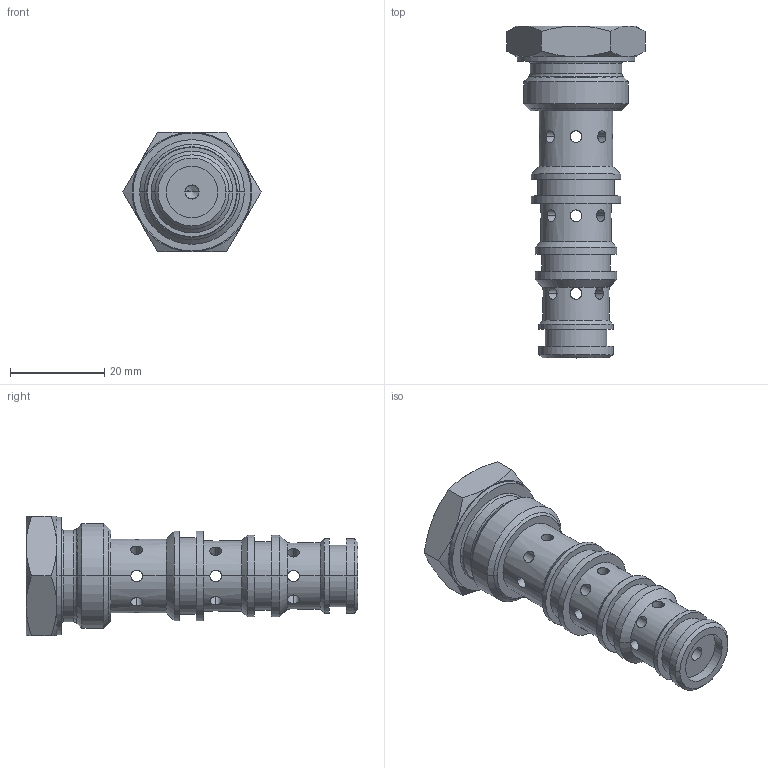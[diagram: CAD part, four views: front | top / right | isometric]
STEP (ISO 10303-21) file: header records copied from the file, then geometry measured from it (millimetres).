
FILE_DESCRIPTION((''),'2;1');
FILE_NAME('SFD2F_B3','2011-03-14T',('tvatras'),(''),'PRO/ENGINEER BY PARAMETRIC TECHNOLOGY CORPORATION, 2010180','PRO/ENGINEER BY PARAMETRIC TECHNOLOGY CORPORATION, 2010180','');
FILE_SCHEMA(('CONFIG_CONTROL_DESIGN'));
Length unit declared in the file: millimetre
Products named in the file (1): SFD2F_B3
Bounding box: 29.33 x 70.5 x 25.4 mm (x, y, z)
Volume: 16512.4 mm3; surface area: 7387.4 mm2
Topology: 1 solids, 2 shells, 141 faces, 409 edges, 251 vertices
Faces by surface type: cylinder 90, cone 28, plane 19, torus 4
Entity records: 5989 total; most frequent: CARTESIAN_POINT 2454, ORIENTED_EDGE 808, DIRECTION 617, EDGE_CURVE 406, AXIS2_PLACEMENT_3D 249, VERTEX_POINT 249, B_SPLINE_CURVE_WITH_KNOTS 182, EDGE_LOOP 171
